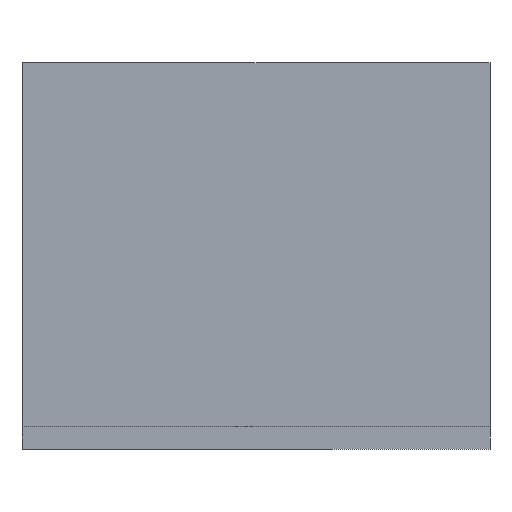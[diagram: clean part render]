
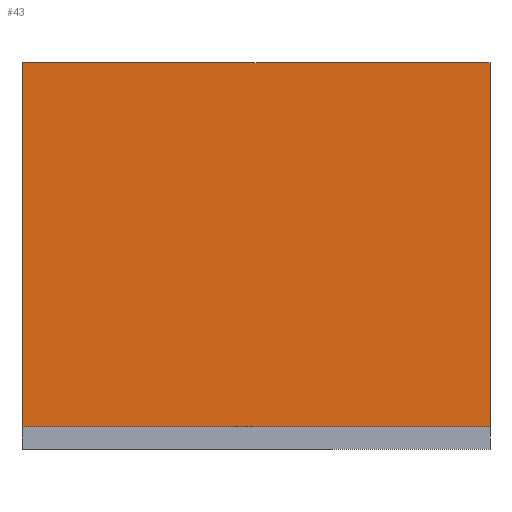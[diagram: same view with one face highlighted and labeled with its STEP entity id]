
A CAD part, front view. The second image highlights one B-rep face of the part: STEP entity #43.
In plain terms, the highlighted planar face has unit normal (0, -1, 0).
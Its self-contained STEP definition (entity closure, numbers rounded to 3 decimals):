
#43 = ADVANCED_FACE('',(#44),#78,.F.);
#44 = FACE_BOUND('',#45,.F.);
#45 = EDGE_LOOP('',(#46,#56,#64,#72));
#46 = ORIENTED_EDGE('',*,*,#47,.T.);
#47 = EDGE_CURVE('',#48,#50,#52,.T.);
#48 = VERTEX_POINT('',#49);
#49 = CARTESIAN_POINT('',(0.,0.,0.));
#50 = VERTEX_POINT('',#51);
#51 = CARTESIAN_POINT('',(0.,0.,21.));
#52 = LINE('',#53,#54);
#53 = CARTESIAN_POINT('',(0.,0.,0.));
#54 = VECTOR('',#55,1.);
#55 = DIRECTION('',(0.,0.,1.));
#56 = ORIENTED_EDGE('',*,*,#57,.T.);
#57 = EDGE_CURVE('',#50,#58,#60,.T.);
#58 = VERTEX_POINT('',#59);
#59 = CARTESIAN_POINT('',(27.,0.,21.));
#60 = LINE('',#61,#62);
#61 = CARTESIAN_POINT('',(0.,0.,21.));
#62 = VECTOR('',#63,1.);
#63 = DIRECTION('',(1.,0.,0.));
#64 = ORIENTED_EDGE('',*,*,#65,.F.);
#65 = EDGE_CURVE('',#66,#58,#68,.T.);
#66 = VERTEX_POINT('',#67);
#67 = CARTESIAN_POINT('',(27.,0.,0.));
#68 = LINE('',#69,#70);
#69 = CARTESIAN_POINT('',(27.,0.,0.));
#70 = VECTOR('',#71,1.);
#71 = DIRECTION('',(0.,0.,1.));
#72 = ORIENTED_EDGE('',*,*,#73,.F.);
#73 = EDGE_CURVE('',#48,#66,#74,.T.);
#74 = LINE('',#75,#76);
#75 = CARTESIAN_POINT('',(0.,0.,0.));
#76 = VECTOR('',#77,1.);
#77 = DIRECTION('',(1.,0.,0.));
#78 = PLANE('',#79);
#79 = AXIS2_PLACEMENT_3D('',#80,#81,#82);
#80 = CARTESIAN_POINT('',(0.,0.,0.));
#81 = DIRECTION('',(0.,1.,0.));
#82 = DIRECTION('',(1.,0.,0.));
